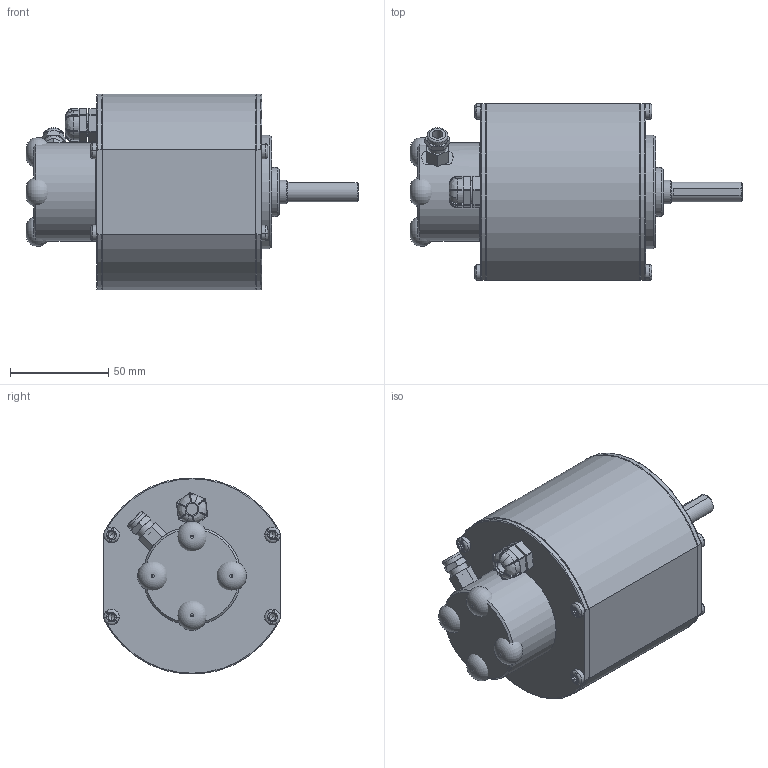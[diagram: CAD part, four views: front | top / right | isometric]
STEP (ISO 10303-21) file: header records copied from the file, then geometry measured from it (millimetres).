
FILE_DESCRIPTION(/* description */ ('Alibre Inc.'),/* implementation_level */ '2;1');
FILE_NAME(/* name */ 'export-4F209853-A7AA-49D2-98D1-4EA5AEE9D345',/* time_stamp */ '2021-06-17T15:17:43+02:00',/* author */ (''),/* organization */ (''),/* preprocessor_version */ 'ST-DEVELOPER v17',/* originating_system */ 'Alibre',/* authorisation */ '');
FILE_SCHEMA (('AUTOMOTIVE_DESIGN'));
Length unit declared in the file: millimetre
Products named in the file (25): 47277; 46361; 46338; 46368; 46371; EMBASE_12_4_POLY; JOINT_ISO12_4_DESOP; ECROU_12_4_POLY; 10187; 46404; 1413; 27287; 27290; 27288; 46421; 46418; 46419; 46420; 46416; 46417; 46422; 46423; 46424; 46425; 47271
Bounding box: 168.98 x 90 x 99.63 mm (x, y, z)
Volume: 392713.9 mm3; surface area: 139458.4 mm2
Topology: 32 solids, 32 shells, 1429 faces, 3844 edges, 2470 vertices
Faces by surface type: cylinder 649, plane 514, cone 81, bspline 77, sphere 56, torus 52
Full cylindrical faces by diameter (mm): 2.013 x4, 3.242 x8, 3.6 x8, 4 x4, 4.5 x12, 4.917 x5, 5.5 x2, 6 x1, 6.647 x1, 7.6 x4, 8 x1, 8.376 x1, 9.9 x1, 10 x3, 10.376 x1, 10.5 x1, 11.9 x1, 12 x1, 14.5 x1, 15.5 x1, 20 x2, 25 x1, 26 x1, 26.04 x1, 28 x1, 28.04 x1, 44 x1, 44.5 x1, 47 x3, 50 x1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
Entity records: 35197 total; most frequent: CARTESIAN_POINT 18528, ORIENTED_EDGE 3266, DIRECTION 3088, EDGE_CURVE 1633, AXIS2_PLACEMENT_3D 1366, VERTEX_POINT 1145, FACE_BOUND 938, EDGE_LOOP 928
